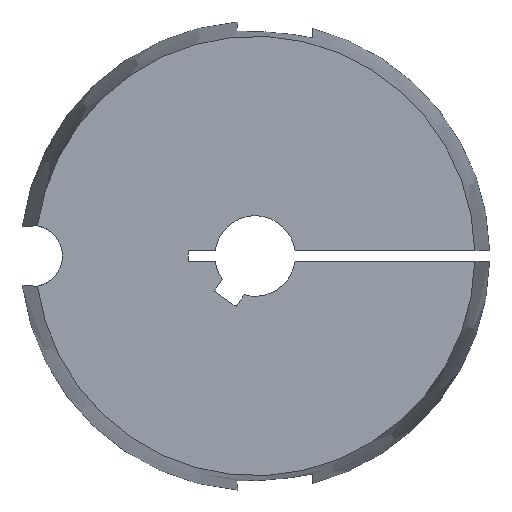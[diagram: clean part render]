
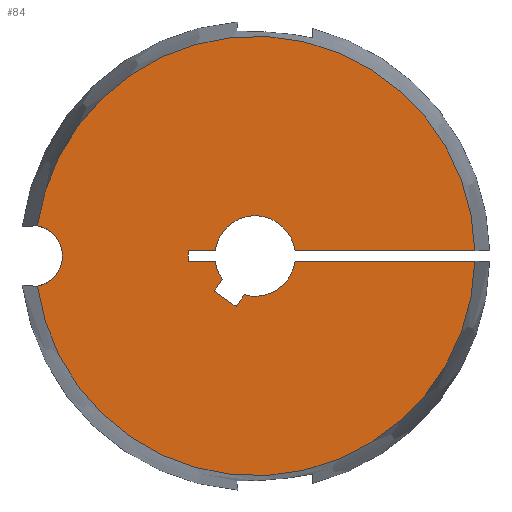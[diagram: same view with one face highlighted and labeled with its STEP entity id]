
A CAD part, left-side view. The second image highlights one B-rep face of the part: STEP entity #84.
In plain terms, the highlighted planar face has unit normal (-1, 0, 0).
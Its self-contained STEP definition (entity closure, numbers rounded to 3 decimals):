
#84 = ADVANCED_FACE( '', ( #114 ), #115, .F. );
#114 = FACE_OUTER_BOUND( '', #154, .T. );
#115 = PLANE( '', #155 );
#154 = EDGE_LOOP( '', ( #251, #252, #253, #254, #255, #256, #257, #258, #259, #260, #261, #262, #263, #264 ) );
#155 = AXIS2_PLACEMENT_3D( '', #265, #266, #267 );
#251 = ORIENTED_EDGE( '', *, *, #349, .T. );
#252 = ORIENTED_EDGE( '', *, *, #381, .F. );
#253 = ORIENTED_EDGE( '', *, *, #352, .T. );
#254 = ORIENTED_EDGE( '', *, *, #365, .T. );
#255 = ORIENTED_EDGE( '', *, *, #363, .T. );
#256 = ORIENTED_EDGE( '', *, *, #360, .T. );
#257 = ORIENTED_EDGE( '', *, *, #369, .T. );
#258 = ORIENTED_EDGE( '', *, *, #382, .T. );
#259 = ORIENTED_EDGE( '', *, *, #383, .T. );
#260 = ORIENTED_EDGE( '', *, *, #384, .T. );
#261 = ORIENTED_EDGE( '', *, *, #385, .T. );
#262 = ORIENTED_EDGE( '', *, *, #386, .T. );
#263 = ORIENTED_EDGE( '', *, *, #354, .T. );
#264 = ORIENTED_EDGE( '', *, *, #387, .F. );
#265 = CARTESIAN_POINT( '', ( -31.8, 0., 0. ) );
#266 = DIRECTION( '', ( 1., 0., 0. ) );
#267 = DIRECTION( '', ( 0., 0., -1. ) );
#349 = EDGE_CURVE( '', #402, #407, #409, .T. );
#352 = EDGE_CURVE( '', #415, #413, #416, .T. );
#354 = EDGE_CURVE( '', #418, #419, #420, .T. );
#360 = EDGE_CURVE( '', #431, #429, #432, .T. );
#363 = EDGE_CURVE( '', #436, #431, #437, .T. );
#365 = EDGE_CURVE( '', #413, #436, #439, .T. );
#369 = EDGE_CURVE( '', #429, #443, #445, .T. );
#381 = EDGE_CURVE( '', #415, #407, #465, .T. );
#382 = EDGE_CURVE( '', #443, #466, #467, .T. );
#383 = EDGE_CURVE( '', #466, #468, #469, .T. );
#384 = EDGE_CURVE( '', #468, #470, #471, .T. );
#385 = EDGE_CURVE( '', #470, #472, #473, .T. );
#386 = EDGE_CURVE( '', #472, #418, #474, .T. );
#387 = EDGE_CURVE( '', #402, #419, #475, .T. );
#402 = VERTEX_POINT( '', #521 );
#407 = VERTEX_POINT( '', #531 );
#409 = CIRCLE( '', #538, 4.6 );
#413 = VERTEX_POINT( '', #543 );
#415 = VERTEX_POINT( '', #546 );
#416 = LINE( '', #547, #548 );
#418 = VERTEX_POINT( '', #556 );
#419 = VERTEX_POINT( '', #557 );
#420 = LINE( '', #558, #559 );
#429 = VERTEX_POINT( '', #577 );
#431 = VERTEX_POINT( '', #580 );
#432 = LINE( '', #581, #582 );
#436 = VERTEX_POINT( '', #588 );
#437 = LINE( '', #589, #590 );
#439 = CIRCLE( '', #593, 6. );
#443 = VERTEX_POINT( '', #598 );
#445 = LINE( '', #601, #602 );
#465 = CIRCLE( '', #625, 32.776 );
#466 = VERTEX_POINT( '', #626 );
#467 = CIRCLE( '', #627, 6. );
#468 = VERTEX_POINT( '', #628 );
#469 = LINE( '', #629, #630 );
#470 = VERTEX_POINT( '', #631 );
#471 = LINE( '', #632, #633 );
#472 = VERTEX_POINT( '', #634 );
#473 = LINE( '', #635, #636 );
#474 = CIRCLE( '', #637, 6. );
#475 = CIRCLE( '', #638, 32.776 );
#521 = CARTESIAN_POINT( '', ( -31.8, 32.464, 4.516 ) );
#531 = CARTESIAN_POINT( '', ( -31.8, 32.464, -4.516 ) );
#538 = AXIS2_PLACEMENT_3D( '', #702, #703, #704 );
#543 = CARTESIAN_POINT( '', ( -31.8, -5.953, -0.75 ) );
#546 = CARTESIAN_POINT( '', ( -31.8, -32.768, -0.75 ) );
#547 = CARTESIAN_POINT( '', ( -31.8, -35., -0.75 ) );
#548 = VECTOR( '', #707, 1000. );
#556 = CARTESIAN_POINT( '', ( -31.8, -5.953, 0.75 ) );
#557 = CARTESIAN_POINT( '', ( -31.8, -32.768, 0.75 ) );
#558 = CARTESIAN_POINT( '', ( -31.8, 0., 0.75 ) );
#559 = VECTOR( '', #708, 1000. );
#577 = CARTESIAN_POINT( '', ( -31.8, 6.112, -5.242 ) );
#580 = CARTESIAN_POINT( '', ( -31.8, 2.836, -7.537 ) );
#581 = CARTESIAN_POINT( '', ( -31.8, 2.836, -7.537 ) );
#582 = VECTOR( '', #713, 1000. );
#588 = CARTESIAN_POINT( '', ( -31.8, 1.606, -5.781 ) );
#589 = CARTESIAN_POINT( '', ( -31.8, 1.606, -5.781 ) );
#590 = VECTOR( '', #716, 1000. );
#593 = AXIS2_PLACEMENT_3D( '', #718, #719, #720 );
#598 = CARTESIAN_POINT( '', ( -31.8, 4.883, -3.487 ) );
#601 = CARTESIAN_POINT( '', ( -31.8, 6.112, -5.242 ) );
#602 = VECTOR( '', #726, 1000. );
#625 = AXIS2_PLACEMENT_3D( '', #754, #755, #756 );
#626 = CARTESIAN_POINT( '', ( -31.8, 5.953, -0.75 ) );
#627 = AXIS2_PLACEMENT_3D( '', #757, #758, #759 );
#628 = CARTESIAN_POINT( '', ( -31.8, 10., -0.75 ) );
#629 = CARTESIAN_POINT( '', ( -31.8, 0., -0.75 ) );
#630 = VECTOR( '', #760, 1000. );
#631 = CARTESIAN_POINT( '', ( -31.8, 10., 0.75 ) );
#632 = CARTESIAN_POINT( '', ( -31.8, 10., -0.75 ) );
#633 = VECTOR( '', #761, 1000. );
#634 = CARTESIAN_POINT( '', ( -31.8, 5.953, 0.75 ) );
#635 = CARTESIAN_POINT( '', ( -31.8, 10., 0.75 ) );
#636 = VECTOR( '', #762, 1000. );
#637 = AXIS2_PLACEMENT_3D( '', #763, #764, #765 );
#638 = AXIS2_PLACEMENT_3D( '', #766, #767, #768 );
#702 = CARTESIAN_POINT( '', ( -31.8, 33.34, 0. ) );
#703 = DIRECTION( '', ( 1., 0., 0. ) );
#704 = DIRECTION( '', ( 0., 1., 0. ) );
#707 = DIRECTION( '', ( 0., 1., 0. ) );
#708 = DIRECTION( '', ( 0., -1., 0. ) );
#713 = DIRECTION( '', ( 0., 0.819, 0.574 ) );
#716 = DIRECTION( '', ( 0., 0.574, -0.819 ) );
#718 = CARTESIAN_POINT( '', ( -31.8, 0., 0. ) );
#719 = DIRECTION( '', ( 1., 0., 0. ) );
#720 = DIRECTION( '', ( 0., 0., -1. ) );
#726 = DIRECTION( '', ( 0., -0.574, 0.819 ) );
#754 = CARTESIAN_POINT( '', ( -31.8, 0., 0. ) );
#755 = DIRECTION( '', ( 1., 0., 0. ) );
#756 = DIRECTION( '', ( 0., 0., -1. ) );
#757 = CARTESIAN_POINT( '', ( -31.8, 0., 0. ) );
#758 = DIRECTION( '', ( 1., 0., 0. ) );
#759 = DIRECTION( '', ( 0., 0., -1. ) );
#760 = DIRECTION( '', ( 0., 1., 0. ) );
#761 = DIRECTION( '', ( 0., 0., 1. ) );
#762 = DIRECTION( '', ( 0., -1., 0. ) );
#763 = CARTESIAN_POINT( '', ( -31.8, 0., 0. ) );
#764 = DIRECTION( '', ( 1., 0., 0. ) );
#765 = DIRECTION( '', ( 0., 0., -1. ) );
#766 = CARTESIAN_POINT( '', ( -31.8, 0., 0. ) );
#767 = DIRECTION( '', ( 1., 0., 0. ) );
#768 = DIRECTION( '', ( 0., 0., -1. ) );
